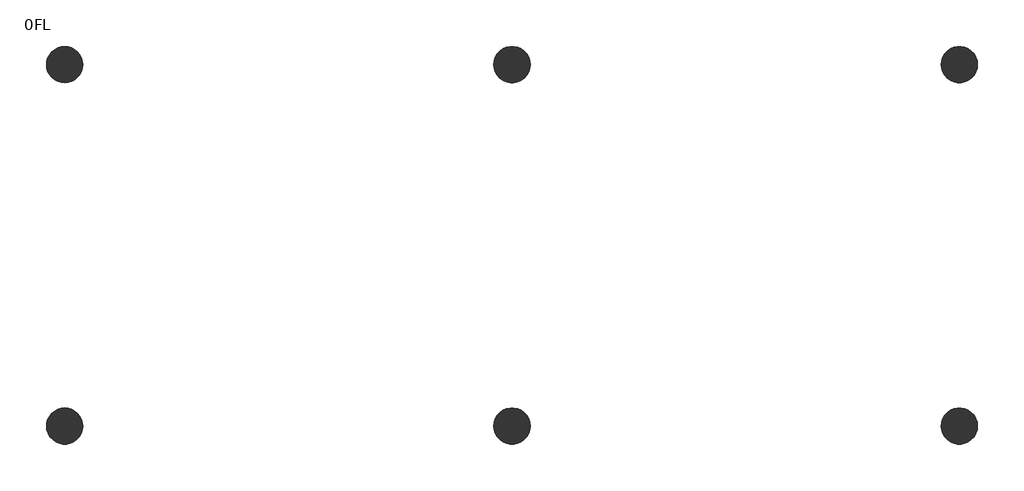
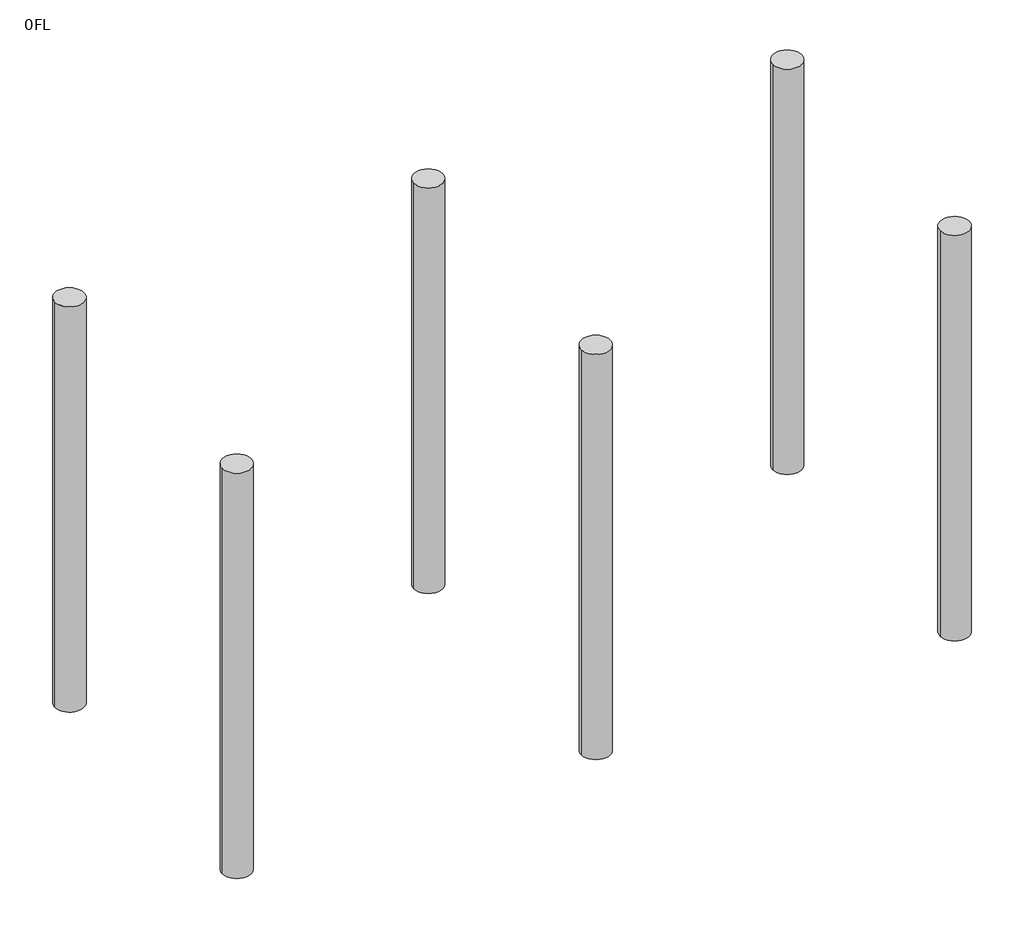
# One storey: 6 columns.
"""IFC4 building model written with IfcOpenShell, lengths in millimetres."""

from ifc_helpers import new_model, si_unit, point, frame_2d, origin, origin_with_axes, place, context, project, spatial, circle_curve, trimmed, segment, composite_curve, outline, extrude, element, save

model = new_model("IFC4")

# Units and contexts
model_context = context("Model", 3, world=origin())
ifc_project = project(units=[si_unit("LENGTHUNIT", "METRE", prefix="MILLI")], contexts=[model_context])

# Site, building, storey
site = spatial("IfcSite", under=ifc_project)
building = spatial("IfcBuilding", under=site)
storey = spatial("IfcBuildingStorey", under=building, Name="0FL", Elevation=0.0)

# Columns
placement = place(None, origin())
element("IfcColumn", 1, ObjectType="混凝土柱-圓形 : 45cm", at=placement, inside=storey, context=model_context, shape_type="SweptSolid", body=[
    extrude(outline(composite_curve([segment(trimmed(circle_curve(frame_2d((-8207.6682319, -1312.8625998)), 225.0), [point((-8432.6682319, -1312.8625998))], [point((-7982.6682319, -1312.8625998))], False, "CARTESIAN"), True, "CONTINUOUS"), segment(trimmed(circle_curve(frame_2d((-8207.6682319, -1312.8625998)), 225.0), [point((-7982.6682319, -1312.8625998))], [point((-8432.6682319, -1312.8625998))], False, "CARTESIAN"), True, "CONTINUOUS")], self_intersect=False)), origin_with_axes(), (0.0, 0.0, 1.0), 6650.0),
])
element("IfcColumn", 2, ObjectType="混凝土柱-圓形 : 45cm", at=placement, inside=storey, context=model_context, shape_type="SweptSolid", body=[
    extrude(outline(composite_curve([segment(trimmed(circle_curve(frame_2d((-2637.6682319, -1312.8625998)), 225.0), [point((-2862.6682319, -1312.8625998))], [point((-2412.6682319, -1312.8625998))], False, "CARTESIAN"), True, "CONTINUOUS"), segment(trimmed(circle_curve(frame_2d((-2637.6682319, -1312.8625998)), 225.0), [point((-2412.6682319, -1312.8625998))], [point((-2862.6682319, -1312.8625998))], False, "CARTESIAN"), True, "CONTINUOUS")], self_intersect=False)), origin_with_axes(), (0.0, 0.0, 1.0), 6650.0),
])
element("IfcColumn", 3, ObjectType="混凝土柱-圓形 : 45cm", at=placement, inside=storey, context=model_context, shape_type="SweptSolid", body=[
    extrude(outline(composite_curve([segment(trimmed(circle_curve(frame_2d((2932.3317681, -1312.8625998)), 225.0), [point((2707.3317681, -1312.8625998))], [point((3157.3317681, -1312.8625998))], False, "CARTESIAN"), True, "CONTINUOUS"), segment(trimmed(circle_curve(frame_2d((2932.3317681, -1312.8625998)), 225.0), [point((3157.3317681, -1312.8625998))], [point((2707.3317681, -1312.8625998))], False, "CARTESIAN"), True, "CONTINUOUS")], self_intersect=False)), origin_with_axes(), (0.0, 0.0, 1.0), 6650.0),
])
element("IfcColumn", 4, ObjectType="混凝土柱-圓形 : 45cm", at=placement, inside=storey, context=model_context, shape_type="SweptSolid", body=[
    extrude(outline(composite_curve([segment(trimmed(circle_curve(frame_2d((-8207.6682319, -5812.8625998)), 225.0), [point((-8432.6682319, -5812.8625998))], [point((-7982.6682319, -5812.8625998))], False, "CARTESIAN"), True, "CONTINUOUS"), segment(trimmed(circle_curve(frame_2d((-8207.6682319, -5812.8625998)), 225.0), [point((-7982.6682319, -5812.8625998))], [point((-8432.6682319, -5812.8625998))], False, "CARTESIAN"), True, "CONTINUOUS")], self_intersect=False)), origin_with_axes(), (0.0, 0.0, 1.0), 6650.0),
])
element("IfcColumn", 5, ObjectType="混凝土柱-圓形 : 45cm", at=placement, inside=storey, context=model_context, shape_type="SweptSolid", body=[
    extrude(outline(composite_curve([segment(trimmed(circle_curve(frame_2d((-2637.6682319, -5812.8625998)), 225.0), [point((-2862.6682319, -5812.8625998))], [point((-2412.6682319, -5812.8625998))], False, "CARTESIAN"), True, "CONTINUOUS"), segment(trimmed(circle_curve(frame_2d((-2637.6682319, -5812.8625998)), 225.0), [point((-2412.6682319, -5812.8625998))], [point((-2862.6682319, -5812.8625998))], False, "CARTESIAN"), True, "CONTINUOUS")], self_intersect=False)), origin_with_axes(), (0.0, 0.0, 1.0), 6650.0),
])
element("IfcColumn", 6, ObjectType="混凝土柱-圓形 : 45cm", at=placement, inside=storey, context=model_context, shape_type="SweptSolid", body=[
    extrude(outline(composite_curve([segment(trimmed(circle_curve(frame_2d((2932.3317681, -5812.8625998)), 225.0), [point((2707.3317681, -5812.8625998))], [point((3157.3317681, -5812.8625998))], False, "CARTESIAN"), True, "CONTINUOUS"), segment(trimmed(circle_curve(frame_2d((2932.3317681, -5812.8625998)), 225.0), [point((3157.3317681, -5812.8625998))], [point((2707.3317681, -5812.8625998))], False, "CARTESIAN"), True, "CONTINUOUS")], self_intersect=False)), origin_with_axes(), (0.0, 0.0, 1.0), 6650.0),
])

save(model, "model.ifc")
